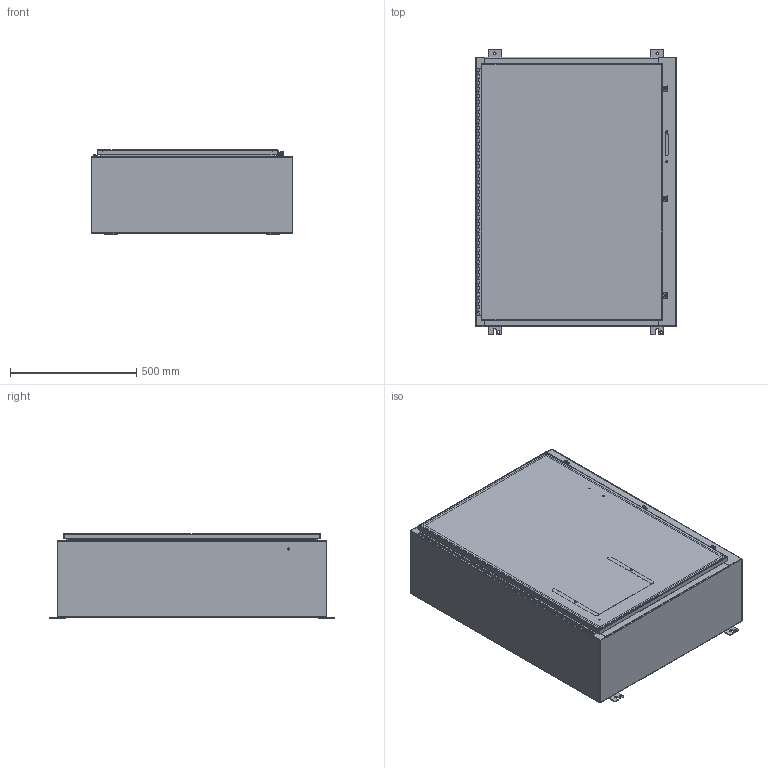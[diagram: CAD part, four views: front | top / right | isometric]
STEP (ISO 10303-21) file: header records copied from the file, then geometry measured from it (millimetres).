
FILE_DESCRIPTION((''),'2;1');
FILE_NAME('MODEL-316_ASM','2021-05-17T10:21:38',('mikek'),('SAGINAW CONTROL & ENGINEERING'),'CREO PARAMETRIC BY PTC INC, 2017260','CREO PARAMETRIC BY PTC INC, 2017260','');
FILE_SCHEMA(('AUTOMOTIVE_DESIGN { 1 0 10303 214 1 1 1 1 }'));
Length unit declared in the file: inch
Products named in the file (27): MODEL-316-BDY; MODEL-316-TP; MODEL-316-BTM; MODEL-316-DR; 100837; 100882; 111267; 118922_DR; 118922_PIN; 118922_BX; 118922_STUD; 118922_ASM; 100897; MODEL-316-GSKT; MODEL-316-DOOR-ASSEMBLY_ASM; 102211; 101653; 121453; 102022; 120131_BASE; 120131_CLAMP; 120131_SCREW; 120131_ASM; SUBPANEL; 100904; SUBPANEL-SUBASSEMBLY_ASM; MODEL-316_ASM
Assembly tree (60 placements, depth 4):
  MODEL-316_ASM
    MODEL-316-BDY
    MODEL-316-TP
    MODEL-316-BTM
    MODEL-316-DOOR-ASSEMBLY_ASM
      MODEL-316-DR
      100837  x5
      100882  x2
      111267
      118922_ASM
        118922_DR
        118922_PIN
        118922_BX
        118922_STUD  x6
      100897  x6
      MODEL-316-GSKT
    102211  x4
    100837
    101653  x6
    121453
    102022
    120131_ASM  x3
      120131_BASE
      120131_CLAMP
      120131_SCREW
    100882  x3
    SUBPANEL-SUBASSEMBLY_ASM
      SUBPANEL
      100904  x6
Bounding box: 796.92 x 1130.3 x 335.36 mm (x, y, z)
Volume: 8694257.5 mm3; surface area: 7993265.9 mm2
Topology: 58 solids, 58 shells, 4003 faces, 10298 edges, 6455 vertices
Faces by surface type: plane 1619, bspline 1018, cylinder 874, torus 256, sphere 134, cone 102
Entity records: 94561 total; most frequent: CARTESIAN_POINT 28883, ORIENTED_EDGE 9504, DIRECTION 8562, PRESENTATION_STYLE_ASSIGNMENT 4877, STYLED_ITEM 4877, CURVE_STYLE 4752, EDGE_CURVE 4752, VERTEX_POINT 2989
